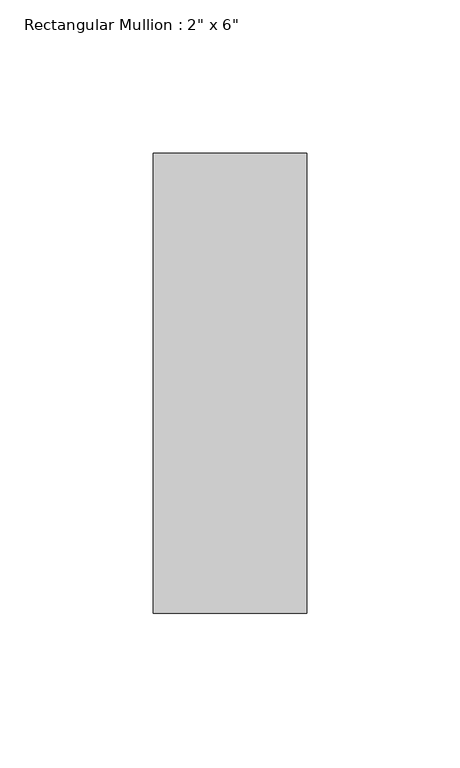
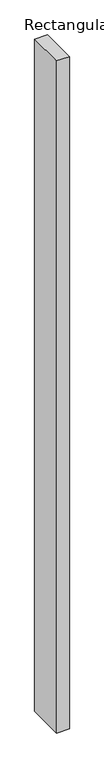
"""IFC4 building model written with IfcOpenShell, lengths in millimetres: member geometry."""

from ifc_helpers import new_model, si_unit, frame, origin, place, context, project, spatial, polyline, outline, extrude, source, transform, mapped, element, save


def member_8985d59a(model_context):
    return source(origin(), model_context, "Body", "SweptSolid", [
        extrude(outline(polyline([(0.0, 150.0), (0.0, 0.0), (-50.0, 0.0), (-50.0, 150.0), (0.0, 150.0)])), frame((0.0, 0.0, -2800.0), z_axis=(0.0, 0.0, 1.0), x_axis=(1.0, 0.0, 0.0)), (0.0, 0.0, 1.0), 2800.0),
    ])


if __name__ == "__main__":
    model = new_model("IFC4")
    model_context = context("Model", 3, world=origin())
    ifc_project = project(units=[si_unit("LENGTHUNIT", "METRE", prefix="MILLI")], contexts=[model_context])
    site = spatial("IfcSite", under=ifc_project)
    building = spatial("IfcBuilding", under=site)
    placement = place(None, origin())
    member_shape = member_8985d59a(model_context)
    element("IfcMember", 1, ObjectType="Rectangular Mullion : 2\" x 6\"", at=placement, inside=building, context=model_context, shape_type="MappedRepresentation", body=[
        mapped(member_shape, transform((0.0, 0.0, 0.0), x_axis=(1.0, 0.0, 0.0), y_axis=(0.0, 1.0, 0.0), z_axis=(0.0, 0.0, 1.0))),
    ])
    save(model, "model.ifc")
